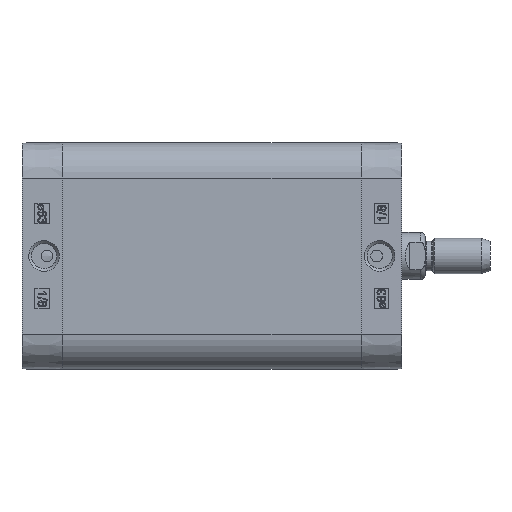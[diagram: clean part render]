
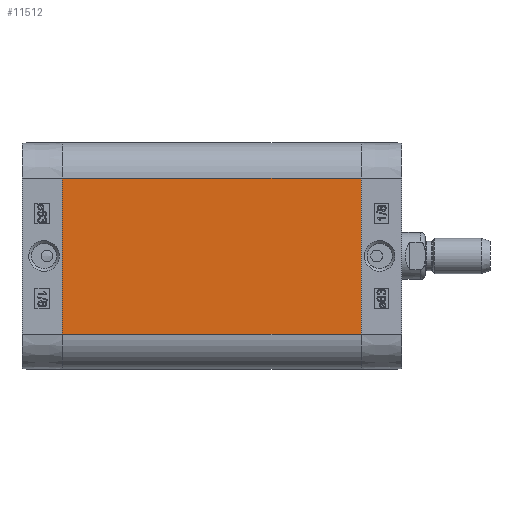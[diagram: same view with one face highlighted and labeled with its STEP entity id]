
A CAD part, left-side view. The second image highlights one B-rep face of the part: STEP entity #11512.
In plain terms, the highlighted planar face has unit normal (-1, 0, 0).
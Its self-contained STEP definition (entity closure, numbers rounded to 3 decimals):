
#5842=CARTESIAN_POINT('',(-38.5,-101.5,26.5));
#5843=VERTEX_POINT('',#5842);
#5850=CARTESIAN_POINT('',(-38.5,-101.5,-26.5));
#5851=VERTEX_POINT('',#5850);
#5852=CARTESIAN_POINT('',(-38.5,-101.5,-26.5));
#5853=DIRECTION('',(0.0,0.0,1.0));
#5854=VECTOR('',#5853,53.0);
#5855=LINE('',#5852,#5854);
#5856=EDGE_CURVE('',#5851,#5843,#5855,.T.);
#11470=CARTESIAN_POINT('',(-38.5,0.0,-26.5));
#11471=VERTEX_POINT('',#11470);
#11472=CARTESIAN_POINT('',(-38.5,0.0,-26.5));
#11473=DIRECTION('',(0.0,-1.0,0.0));
#11474=VECTOR('',#11473,101.5);
#11475=LINE('',#11472,#11474);
#11476=EDGE_CURVE('',#11471,#5851,#11475,.T.);
#11489=CARTESIAN_POINT('',(-38.5,0.0,-26.5));
#11490=DIRECTION('',(-1.0,0.0,0.0));
#11491=DIRECTION('',(0.0,0.0,1.0));
#11492=AXIS2_PLACEMENT_3D('',#11489,#11490,#11491);
#11493=PLANE('',#11492);
#11494=ORIENTED_EDGE('',*,*,#5856,.T.);
#11495=CARTESIAN_POINT('',(-38.5,0.0,26.5));
#11496=VERTEX_POINT('',#11495);
#11497=CARTESIAN_POINT('',(-38.5,0.0,26.5));
#11498=DIRECTION('',(0.0,-1.0,0.0));
#11499=VECTOR('',#11498,101.5);
#11500=LINE('',#11497,#11499);
#11501=EDGE_CURVE('',#11496,#5843,#11500,.T.);
#11502=ORIENTED_EDGE('',*,*,#11501,.F.);
#11503=CARTESIAN_POINT('',(-38.5,0.0,-26.5));
#11504=DIRECTION('',(0.0,0.0,1.0));
#11505=VECTOR('',#11504,53.0);
#11506=LINE('',#11503,#11505);
#11507=EDGE_CURVE('',#11471,#11496,#11506,.T.);
#11508=ORIENTED_EDGE('',*,*,#11507,.F.);
#11509=ORIENTED_EDGE('',*,*,#11476,.T.);
#11510=EDGE_LOOP('',(#11494,#11502,#11508,#11509));
#11511=FACE_OUTER_BOUND('',#11510,.T.);
#11512=ADVANCED_FACE('',(#11511),#11493,.T.);
